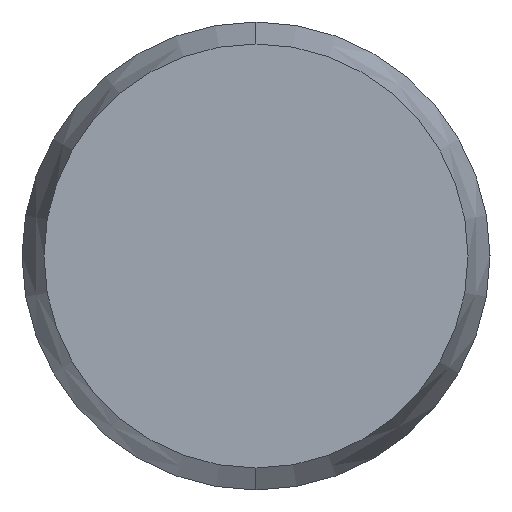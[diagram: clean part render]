
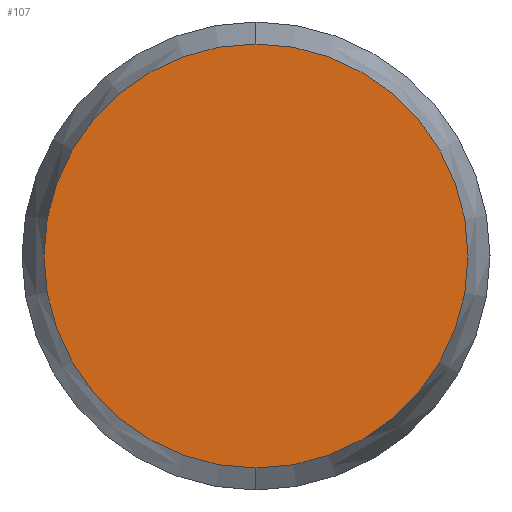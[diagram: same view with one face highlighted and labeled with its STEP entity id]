
A CAD part, left-side view. The second image highlights one B-rep face of the part: STEP entity #107.
In plain terms, the highlighted planar face has unit normal (-1, 0, 0).
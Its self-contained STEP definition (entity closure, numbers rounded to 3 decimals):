
#104 = EDGE_CURVE ( 'NONE', #160, #159, #148, .T. ) ;
#107 = ADVANCED_FACE ( 'NONE', ( #139 ), #138, .F. ) ;
#108 = EDGE_LOOP ( 'NONE', ( #109, #110 ) ) ;
#109 = ORIENTED_EDGE ( 'NONE', *, *, #158, .F. ) ;
#110 = ORIENTED_EDGE ( 'NONE', *, *, #104, .F. ) ;
#134 = DIRECTION ( 'NONE',  ( 0., 0., -1. ) ) ;
#135 = DIRECTION ( 'NONE',  ( 1., 0., 0. ) ) ;
#136 = CARTESIAN_POINT ( 'NONE',  ( -27.5, 0., 0. ) ) ;
#137 = AXIS2_PLACEMENT_3D ( 'NONE', #136, #135, #134 ) ;
#138 = PLANE ( 'NONE',  #137 ) ;
#139 = FACE_OUTER_BOUND ( 'NONE', #108, .T. ) ;
#140 = DIRECTION ( 'NONE',  ( 0., 0., -1. ) ) ;
#141 = DIRECTION ( 'NONE',  ( 1., 0., 0. ) ) ;
#142 = CARTESIAN_POINT ( 'NONE',  ( -27.5, 0., 0. ) ) ;
#143 = AXIS2_PLACEMENT_3D ( 'NONE', #142, #141, #140 ) ;
#148 = CIRCLE ( 'NONE', #143, 1.812 ) ;
#158 = EDGE_CURVE ( 'NONE', #159, #160, #165, .T. ) ;
#159 = VERTEX_POINT ( 'NONE', #172 ) ;
#160 = VERTEX_POINT ( 'NONE', #171 ) ;
#165 = CIRCLE ( 'NONE', #185, 1.812 ) ;
#166 = CARTESIAN_POINT ( 'NONE',  ( -27.5, 0., 0. ) ) ;
#171 = CARTESIAN_POINT ( 'NONE',  ( -27.5, 0., -1.812 ) ) ;
#172 = CARTESIAN_POINT ( 'NONE',  ( -27.5, 0., 1.812 ) ) ;
#183 = DIRECTION ( 'NONE',  ( 0., 0., -1. ) ) ;
#184 = DIRECTION ( 'NONE',  ( 1., 0., 0. ) ) ;
#185 = AXIS2_PLACEMENT_3D ( 'NONE', #166, #184, #183 ) ;
